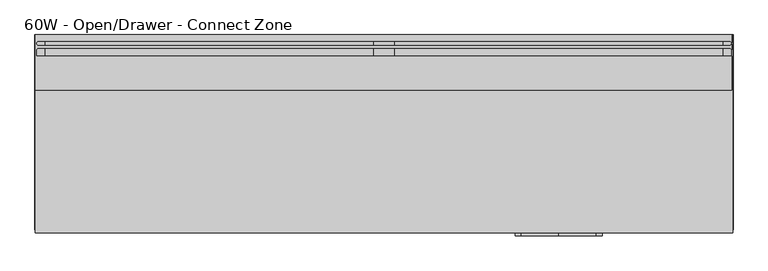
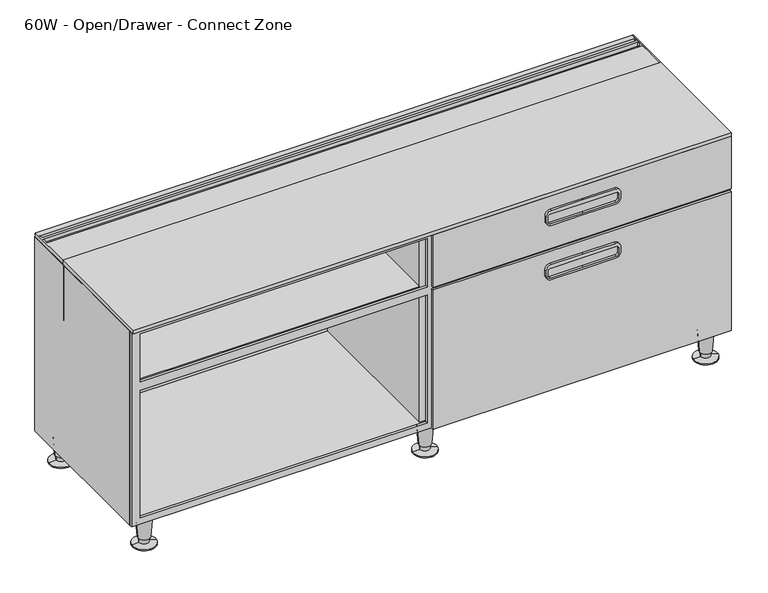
"""IFC4 building model written with IfcOpenShell, lengths in millimetres: furniture geometry, Steelcase - C Scape - Low Storage - 1.5 High - 60W and 72W : 60W - Open/Drawer - Connect Zone."""

from ifc_helpers import new_model, si_unit, point, frame, frame_2d, origin, place, context, project, spatial, polyline, circle_curve, trimmed, segment, composite_curve, outline, extrude, faceted_brep, source, transform, mapped, element, save
from ifc_brep_helpers import plane_surface, cylinder_surface, revolved_surface, advanced_brep


def furniture_60w_open_drawer_connect_zone_06160b98(model_context):
    return source(origin(), model_context, "Body", "SolidModel", [
        advanced_brep(
        [(-302.0173728, -29.5783496, 599.4426137), (-302.0173728, -29.5783496, 458.7801967), (-302.0173728, -9.5194193, 458.7801967), (-302.0173728, -9.5194193, 466.2604814), (-302.0173728, 0.0055807, 466.2604814), (-302.0173728, 0.0055807, 599.4426137), (-302.0173728, -17.0388453, 599.4426137), (-302.0173728, -17.0388453, 609.5926846), (-302.0173728, -20.5059237, 609.5926846), (-302.0173728, -20.5059237, 599.4426137), (-302.0173728, -46.4703418, 599.4426137), (-302.0173728, -32.0458511, 599.4426137), (-302.0173728, -32.0458511, 609.5926846), (-302.0173728, -46.4703418, 609.5926846), (-304.8013237, -120.6444193, 599.4426137), (-304.8013237, -120.6444193, 609.5926846), (-304.8013237, 0.0055807, 609.5926846), (-304.8013237, 0.0055807, 466.2604814), (-304.8013237, -9.5194193, 466.2604814), (-304.8013237, -9.5194193, 458.7801967), (-304.8013237, -29.5783496, 458.7801967), (-304.8013237, -29.5783496, 599.4426137), (-299.2329352, -23.2903613, 599.4426137), (1212.1507358, -23.2903613, 599.4426137), (1215.1272317, -20.3138654, 599.4426137), (1215.1473728, -32.274699, 599.4426137), (1212.4308823, -29.5783496, 599.4426137), (-299.5498713, -29.5783496, 599.4426137), (1215.1473728, -46.4703418, 599.4426137), (1215.1473728, -120.5681445, 599.4426137), (-299.3205978, -14.3420703, 599.4426137), (1215.1473728, 0.0, 599.4426137), (1215.1473728, -17.0388453, 599.4426137), (1212.4505978, -14.3420703, 599.4426137), (1215.1473728, 0.0055807, 609.5926846), (1215.1473728, -120.5681445, 609.5926846), (1215.1473728, -46.4703418, 609.5926846), (-299.5498713, -29.5783496, 609.5926846), (1212.4308823, -29.5783496, 609.5926846), (1215.1272317, -32.274699, 609.5926846), (1215.1473728, -20.3138654, 609.5926846), (1212.1507358, -23.2903613, 609.5926846), (-299.2329352, -23.2903613, 609.5926846), (-299.3205978, -14.3420703, 609.5926846), (1212.4505978, -14.3420703, 609.5926846), (1215.1473728, -17.0388453, 609.5926846)],
        [
            (0, 1),
            (1, 2),
            (2, 3),
            (3, 4),
            (4, 5),
            (5, 6),
            (6, 7),
            (7, 8),
            (8, 9),
            (9, 0),
            (10, 11),
            (11, 12),
            (12, 13),
            (13, 10),
            (14, 15),
            (15, 16),
            (16, 17),
            (17, 18),
            (18, 19),
            (19, 20),
            (20, 21),
            (21, 14),
            (21, 0),
            (9, 22, circle_curve(frame((-299.2329352, -20.5059237, 599.4426137), z_axis=(0.0, 0.0, 1.0), x_axis=(1.0, 0.0, 0.0)), 2.7844376)),
            (22, 23),
            (23, 24, circle_curve(frame((1212.1507358, -20.3138654, 599.4426137), z_axis=(0.0, 0.0, 1.0), x_axis=(1.0, 0.0, 0.0)), 2.9764959)),
            (24, 25),
            (25, 26, circle_curve(frame((1212.4308823, -32.274699, 599.4426137), z_axis=(0.0, 0.0, 1.0), x_axis=(1.0, 0.0, 0.0)), 2.6963494)),
            (26, 27),
            (27, 11, circle_curve(frame((-299.5498713, -32.0458511, 599.4426137), z_axis=(0.0, 0.0, 1.0), x_axis=(1.0, 0.0, 0.0)), 2.4675015)),
            (10, 28),
            (28, 29),
            (29, 14),
            (30, 6, circle_curve(frame((-299.3205978, -17.0388453, 599.4426137), z_axis=(0.0, 0.0, 1.0), x_axis=(1.0, 0.0, 0.0)), 2.696775)),
            (5, 31),
            (31, 32),
            (32, 33, circle_curve(frame((1212.4505978, -17.0388453, 599.4426137), z_axis=(0.0, 0.0, 1.0), x_axis=(1.0, 0.0, 0.0)), 2.696775)),
            (33, 30),
            (20, 1),
            (19, 2),
            (18, 3),
            (17, 4),
            (16, 34),
            (34, 31),
            (15, 35),
            (35, 36),
            (36, 13),
            (12, 37, circle_curve(frame((-299.5498713, -32.0458511, 609.5926846), z_axis=(0.0, 0.0, -1.0), x_axis=(1.0, 0.0, 0.0)), 2.4675015)),
            (37, 38),
            (38, 39, circle_curve(frame((1212.4308823, -32.274699, 609.5926846), z_axis=(0.0, 0.0, -1.0), x_axis=(1.0, 0.0, 0.0)), 2.6963494)),
            (39, 40),
            (40, 41, circle_curve(frame((1212.1507358, -20.3138654, 609.5926846), z_axis=(0.0, 0.0, -1.0), x_axis=(1.0, 0.0, 0.0)), 2.9764959)),
            (41, 42),
            (42, 8, circle_curve(frame((-299.2329352, -20.5059237, 609.5926846), z_axis=(0.0, 0.0, -1.0), x_axis=(1.0, 0.0, 0.0)), 2.7844376)),
            (7, 43, circle_curve(frame((-299.3205978, -17.0388453, 609.5926846), z_axis=(0.0, 0.0, -1.0), x_axis=(1.0, 0.0, 0.0)), 2.696775)),
            (43, 44),
            (44, 45, circle_curve(frame((1212.4505978, -17.0388453, 609.5926846), z_axis=(0.0, 0.0, -1.0), x_axis=(1.0, 0.0, 0.0)), 2.696775)),
            (45, 34),
            (29, 35),
            (38, 26),
            (25, 39),
            (24, 40),
            (23, 41),
            (22, 42),
            (27, 37),
            (36, 28),
            (43, 30),
            (33, 44),
            (32, 45),
        ],
        [
            plane_surface(frame((-302.0173728, -120.6444193, 599.4426137), z_axis=(1.0, 0.0, 0.0), x_axis=(0.0, 1.0, 0.0))),
            plane_surface(frame((-304.8013237, -120.6444193, 599.4426137), z_axis=(-1.0, 0.0, 0.0), x_axis=(0.0, -1.0, 0.0))),
            plane_surface(frame((-302.0173728, -120.6444193, 599.4426137), z_axis=(0.0, 0.0, -1.0), x_axis=(-1.0, 0.0, 0.0))),
            plane_surface(frame((-302.0173728, -29.5783496, 599.4426137), z_axis=(0.0, -1.0, 0.0), x_axis=(-1.0, 0.0, 0.0))),
            plane_surface(frame((-302.0173728, -29.5783496, 458.7801967), z_axis=(0.0, 0.0, -1.0), x_axis=(-1.0, 0.0, 0.0))),
            plane_surface(frame((-302.0173728, -9.5194193, 458.7801967), z_axis=(0.0, 1.0, 0.0), x_axis=(-1.0, 0.0, 0.0))),
            plane_surface(frame((-302.0173728, -9.5194193, 466.2604814), z_axis=(0.0, 0.0, -1.0), x_axis=(-1.0, 0.0, 0.0))),
            plane_surface(frame((-302.0173728, 0.0055807, 466.2604814), z_axis=(0.0, 1.0, 0.0), x_axis=(-1.0, 0.0, 0.0))),
            plane_surface(frame((-302.0173728, 0.0055807, 609.5926846), z_axis=(0.0, 0.0, 1.0), x_axis=(-1.0, 0.0, 0.0))),
            plane_surface(frame((-302.0173728, -120.6444193, 609.5926846), z_axis=(0.0, -1.0, 0.0), x_axis=(-1.0, 0.0, 0.0))),
            revolved_surface(polyline([(1215.1272316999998, -32.274699, 599.4426137), (1215.1272316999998, -32.274699, 609.5926846)]), (1212.4308823, -32.274699, 599.4426137), (0.0, 0.0, -1.0)),
            plane_surface(frame((1215.1473728, -32.274699, 609.5926846), z_axis=(1.0, 0.0, 0.0), x_axis=(0.0, 0.0, -1.0))),
            revolved_surface(polyline([(1215.1272316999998, -20.3138654, 599.4426137), (1215.1272316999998, -20.3138654, 609.5926846)]), (1212.1507358, -20.3138654, 599.4426137), (0.0, 0.0, -1.0)),
            plane_surface(frame((1212.1507358, -23.2903613, 609.5926846), z_axis=(0.0, 1.0, 0.0), x_axis=(0.0, 0.0, -1.0))),
            revolved_surface(polyline([(-296.4484976, -20.5059237, 599.4426137), (-296.4484976, -20.5059237, 609.5926846)]), (-299.2329352, -20.5059237, 599.4426137), (0.0, 0.0, -1.0)),
            revolved_surface(polyline([(-297.0823698, -32.0458511, 599.4426137), (-297.0823698, -32.0458511, 609.5926846)]), (-299.5498713, -32.0458511, 599.4426137), (0.0, 0.0, -1.0)),
            plane_surface(frame((-299.5498713, -29.5783496, 609.5926846), z_axis=(0.0, -1.0, 0.0), x_axis=(0.0, 0.0, -1.0))),
            plane_surface(frame((1215.1473728, -46.4703418, 609.5926846), z_axis=(0.0, 1.0, 0.0), x_axis=(0.0, 0.0, -1.0))),
            plane_surface(frame((1215.1473728, -120.5681445, 609.5926846), z_axis=(1.0, 0.0, 0.0), x_axis=(0.0, 0.0, -1.0))),
            plane_surface(frame((-299.3205978, -14.3420703, 609.5926846), z_axis=(0.0, -1.0, 0.0), x_axis=(0.0, 0.0, -1.0))),
            revolved_surface(polyline([(1215.1473727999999, -17.0388453, 599.4426137), (1215.1473727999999, -17.0388453, 609.5926846)]), (1212.4505978, -17.0388453, 41.6222656), (0.0, 0.0, -1.0)),
            plane_surface(frame((1215.1473728, -17.0388453, 609.5926846), z_axis=(1.0, 0.0, 0.0), x_axis=(0.0, 0.0, -1.0))),
            revolved_surface(polyline([(-296.62382279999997, -17.0388453, 599.4426137), (-296.62382279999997, -17.0388453, 609.5926846)]), (-299.3205978, -17.0388453, 41.6222656), (0.0, 0.0, -1.0)),
        ],
        [
            (0, [[1, 2, 3, 4, 5, 6, 7, 8, 9, 10]]),
            (0, [[11, 12, 13, 14]]),
            (1, [[15, 16, 17, 18, 19, 20, 21, 22]]),
            (2, [[-22, 23, -10, 24, 25, 26, 27, 28, 29, 30, -11, 31, 32, 33]]),
            (2, [[34, -6, 35, 36, 37, 38]]),
            (3, [[-1, -23, -21, 39]]),
            (4, [[-2, -39, -20, 40]]),
            (5, [[-3, -40, -19, 41]]),
            (6, [[-4, -41, -18, 42]]),
            (7, [[-17, 43, 44, -35, -5, -42]]),
            (8, [[-43, -16, 45, 46, 47, -13, 48, 49, 50, 51, 52, 53, 54, -8, 55, 56, 57, 58]]),
            (9, [[-45, -15, -33, 59]]),
            (10, [[-50, 60, -28, 61]]),
            (11, [[-51, -61, -27, 62]]),
            (12, [[-52, -62, -26, 63]]),
            (13, [[-53, -63, -25, 64]]),
            (14, [[-54, -64, -24, -9]]),
            (15, [[-48, -12, -30, 65]]),
            (16, [[-49, -65, -29, -60]]),
            (17, [[-47, 66, -31, -14]]),
            (18, [[-46, -59, -32, -66]]),
            (19, [[-56, 67, -38, 68]]),
            (20, [[-57, -68, -37, 69]]),
            (21, [[-58, -69, -36, -44]]),
            (22, [[-55, -7, -34, -67]]),
        ],
    ),
        extrude(outline(polyline([(458.7240097, 572.1950189), (432.6382043, 572.1950189), (432.6382043, 449.8975), (432.6382043, 340.9349811), (458.7240097, 340.9349811), (458.7240097, -304.8013237), (92.7100024, -304.8013237), (92.7100024, 1217.93), (458.7240097, 1217.93), (458.7240097, 572.1950189)])), frame((0.0, -9.5194193, 0.0), z_axis=(0.0, 1.0, 0.0), x_axis=(0.0, 0.0, 1.0)), (0.0, 0.0, 1.0), 9.525),
        extrude(outline(polyline([(-120.6444193, 609.6), (-120.6444193, 450.8499879), (-126.9863574, 450.8499879), (-126.9863574, 599.4499291), (-433.07, 599.4499291), (-433.07, 609.6), (-120.6444193, 609.6)])), frame((-304.8013237, 0.0, 0.0), z_axis=(1.0, 0.0, 0.0), x_axis=(0.0, 1.0, 0.0)), (0.0, 0.0, 1.0), 1522.7313237),
        extrude(outline(polyline([(-120.6444193, 599.4426137), (-120.6444193, 609.5926846), (0.0055807, 609.5926846), (0.0055807, 466.2604814), (-9.5194193, 466.2604814), (-9.5194193, 458.7801967), (-29.5783496, 458.7801967), (-29.5783496, 599.4426137), (-120.6444193, 599.4426137)])), frame((1215.1473728, 0.0, 0.0), z_axis=(1.0, 0.0, 0.0), x_axis=(0.0, 1.0, 0.0)), (0.0, 0.0, 1.0), 2.7826272),
        extrude(outline(polyline([(76.1508625, -305.435), (76.1508625, 1218.565), (599.4400097, 1218.565), (599.4400097, 457.132594), (599.4400097, -305.435), (76.1508625, -305.435)]), holes=[polyline([(92.7100024, 447.6410976), (92.7100024, -283.4617676), (436.8800097, -283.4617676), (436.8800097, 447.6410976), (92.7100024, 447.6410976)]), polyline([(588.9625, -283.4617676), (588.9625, 447.6410976), (458.7240097, 447.6410976), (458.7240097, -283.4617676), (588.9625, -283.4617676)]), polyline([(436.8800097, 465.4889024), (436.8800097, 1196.5917676), (92.7100024, 1196.5917676), (92.7100024, 465.4889024), (436.8800097, 465.4889024)]), polyline([(588.9625, 1196.5917676), (458.7240097, 1196.5917676), (458.7240097, 465.4889024), (588.9625, 465.4889024), (588.9625, 1196.5917676)])]), frame((0.0, -426.7186111, 0.0), z_axis=(0.0, 1.0, 0.0), x_axis=(0.0, 0.0, 1.0)), (0.0, 0.0, 1.0), 7.3648883),
        extrude(outline(polyline([(1218.565, 0.0), (1218.565, -419.3537227), (1196.5917676, -419.3537227), (1196.5917676, 0.0), (1218.565, 0.0)])), frame((0.0, 0.0, 76.2), z_axis=(0.0, 0.0, 1.0), x_axis=(1.0, 0.0, 0.0)), (0.0, 0.0, 1.0), 523.2400097),
        extrude(outline(polyline([(-283.4630912, -419.3537227), (-305.435, -419.3537227), (-305.435, 0.0), (-283.4630912, 0.0), (-283.4630912, -419.3537227)])), frame((0.0, 0.0, 76.2), z_axis=(0.0, 0.0, 1.0), x_axis=(1.0, 0.0, 0.0)), (0.0, 0.0, 1.0), 523.2400097),
        extrude(outline(polyline([(434.0224874, -415.2912402), (434.0224874, -9.525), (479.1075126, -9.525), (479.1075126, -415.2912402), (434.0224874, -415.2912402)])), frame((0.0, 0.0, 76.2), z_axis=(0.0, 0.0, 1.0), x_axis=(1.0, 0.0, 0.0)), (0.0, 0.0, 1.0), 523.2400097),
        extrude(outline(polyline([(479.1075126, -9.525), (1196.5917676, -9.525), (1196.5917676, -415.2912402), (479.1075126, -415.2912402), (479.1075126, -9.525)])), frame((0.0, 0.0, 436.8800097), z_axis=(0.0, 0.0, 1.0), x_axis=(1.0, 0.0, 0.0)), (0.0, 0.0, 1.0), 21.844),
        extrude(outline(polyline([(434.0224874, -415.2912402), (-283.4617676, -415.2912402), (-283.4617676, -9.525), (434.0224874, -9.525), (434.0224874, -415.2912402)])), frame((0.0, 0.0, 436.8800097), z_axis=(0.0, 0.0, 1.0), x_axis=(1.0, 0.0, 0.0)), (0.0, 0.0, 1.0), 21.844),
        extrude(outline(composite_curve([segment(trimmed(circle_curve(frame_2d((406.3999879, 755.3320892)), 12.7), [point((419.0999879, 755.3320892))], [point((406.3999879, 742.6320892))], False, "CARTESIAN"), True, "CONTINUOUS"), segment(polyline([(406.3999879, 742.6320892), (391.795017, 742.6320892)]), True, "CONTINUOUS"), segment(trimmed(circle_curve(frame_2d((391.795017, 755.3320892)), 12.7), [point((391.795017, 742.6320892))], [point((379.095017, 755.3320892))], False, "CARTESIAN"), True, "CONTINUOUS"), segment(polyline([(379.095017, 755.3320892), (379.095017, 837.564845), (379.095017, 919.7976007)]), True, "CONTINUOUS"), segment(trimmed(circle_curve(frame_2d((391.795017, 919.7976007)), 12.7), [point((379.095017, 919.7976007))], [point((391.795017, 932.4976007))], False, "CARTESIAN"), True, "CONTINUOUS"), segment(polyline([(391.795017, 932.4976007), (406.3999879, 932.4976007)]), True, "CONTINUOUS"), segment(trimmed(circle_curve(frame_2d((406.3999879, 919.7976007)), 12.7), [point((406.3999879, 932.4976007))], [point((419.0999879, 919.7976007))], False, "CARTESIAN"), True, "CONTINUOUS"), segment(polyline([(419.0999879, 919.7976007), (419.0999879, 837.564845), (419.0999879, 755.3320892)]), True, "CONTINUOUS")], self_intersect=False), holes=[composite_curve([segment(trimmed(circle_curve(frame_2d((402.9710063, 753.8097015)), 6.35), [point((402.9710063, 747.4597015))], [point((409.3210063, 753.8097015))], True, "CARTESIAN"), True, "CONTINUOUS"), segment(polyline([(409.3210063, 753.8097015), (409.3210063, 837.564845), (409.3210063, 921.3199884)]), True, "CONTINUOUS"), segment(trimmed(circle_curve(frame_2d((402.9710063, 921.3199884)), 6.35), [point((409.3210063, 921.3199884))], [point((402.9710063, 927.6699884))], True, "CARTESIAN"), True, "CONTINUOUS"), segment(polyline([(402.9710063, 927.6699884), (390.2709942, 927.6699884)]), True, "CONTINUOUS"), segment(trimmed(circle_curve(frame_2d((390.2709942, 921.3199884)), 6.35), [point((390.2709942, 927.6699884))], [point((383.9209942, 921.3199884))], True, "CARTESIAN"), True, "CONTINUOUS"), segment(polyline([(383.9209942, 921.3199884), (383.9209942, 837.564845), (383.9209942, 753.8097015)]), True, "CONTINUOUS"), segment(trimmed(circle_curve(frame_2d((390.2709942, 753.8097015)), 6.35), [point((383.9209942, 753.8097015))], [point((390.2709942, 747.4597015))], True, "CARTESIAN"), True, "CONTINUOUS"), segment(polyline([(390.2709942, 747.4597015), (402.9710063, 747.4597015)]), True, "CONTINUOUS")], self_intersect=False)]), frame((0.0, -439.42, 0.0), z_axis=(0.0, 1.0, 0.0), x_axis=(0.0, 0.0, 1.0)), (0.0, 0.0, 1.0), 6.35),
        extrude(outline(polyline([(457.1996899, -426.7186111), (1217.93, -426.7186111), (1217.93, -433.07), (457.1996899, -433.07), (457.1996899, -426.7186111)])), frame((0.0, 0.0, 458.7240097), z_axis=(0.0, 0.0, 1.0), x_axis=(1.0, 0.0, 0.0)), (0.0, 0.0, 1.0), 140.716),
        faceted_brep([(-283.4617676, -419.3537227, 92.7100024), (1196.5917676, -419.3537227, 92.7100024), (1196.5917676, -9.525, 92.7100024), (479.1075126, -9.525, 92.7100024), (479.1075126, -415.2912402, 92.7100024), (434.0224874, -415.2912402, 92.7100024), (434.0224874, -9.525, 92.7100024), (-283.4617676, -9.525, 92.7100024), (1218.565, 0.0, 76.2), (1218.565, -419.3537227, 76.2), (-305.435, -419.3537227, 76.2), (-305.435, 0.0, 76.2), (-283.4630912, -419.3537227, 599.4400097), (-305.435, -419.3537227, 599.4400097), (1218.565, -419.3537227, 599.4400097), (1196.5917676, -419.3537227, 599.4400097), (-305.435, 0.0, 599.4400097), (1218.565, 0.0, 599.4400097), (-283.4630912, -9.525, 599.4400097), (434.0224874, -9.525, 599.4400097), (434.0224874, -415.2912402, 599.4400097), (479.1075126, -415.2912402, 599.4400097), (479.1075126, -9.525, 599.4400097), (1196.5917676, -9.525, 599.4400097)], [[[0, 1, 2, 3, 4, 5, 6, 7]], [[8, 9, 10, 11]], [[1, 0, 12, 13, 10, 9, 14, 15]], [[8, 11, 16, 17]], [[16, 13, 12, 18, 19, 20, 21, 22, 23, 15, 14, 17]], [[13, 16, 11, 10]], [[18, 12, 0, 7]], [[19, 18, 7, 6]], [[20, 19, 6, 5]], [[22, 21, 4, 3]], [[23, 22, 3, 2]], [[15, 23, 2, 1]], [[17, 14, 9, 8]], [[21, 20, 5, 4]]]),
        advanced_brep(
        [(427.4539515, -29.9489775, 0.0), (485.6760485, -38.8569507, 0.0), (456.565, -34.4029641, 0.0), (427.4539515, -29.9489775, 2.5119506), (485.6760485, -38.8569507, 2.5119506), (444.802835, -32.6033544, 5.7545598), (468.327165, -36.2025738, 5.7545598), (444.1140655, -32.4979728, 19.05), (469.0159345, -36.3079555, 19.05), (441.6844786, -32.1262463, 19.05), (471.4455214, -36.6796819, 19.05), (437.7341305, -31.5218435, 76.2), (475.3958695, -37.2840847, 76.2), (456.565, -34.4029641, 76.2)],
        [
            (0, 1, circle_curve(frame((456.565, -34.4029641, 0.0), z_axis=(0.0, 0.0, -1.0), x_axis=(0.0, -1.0, 0.0)), 29.4498071)),
            (1, 2),
            (2, 0),
            (1, 0, circle_curve(frame((456.565, -34.4029641, 0.0), z_axis=(0.0, 0.0, -1.0), x_axis=(0.0, -1.0, 0.0)), 29.4498071)),
            (3, 4, circle_curve(frame((456.565, -34.4029641, 2.5119506), z_axis=(0.0, 0.0, -1.0), x_axis=(0.0, -1.0, 0.0)), 29.4498071)),
            (4, 1),
            (0, 3),
            (4, 3, circle_curve(frame((456.565, -34.4029641, 2.5119506), z_axis=(0.0, 0.0, -1.0), x_axis=(0.0, -1.0, 0.0)), 29.4498071)),
            (5, 6, circle_curve(frame((456.565, -34.4029641, 5.7545598), z_axis=(0.0, 0.0, -1.0), x_axis=(0.0, -1.0, 0.0)), 11.8990387)),
            (6, 4),
            (3, 5),
            (6, 5, circle_curve(frame((456.565, -34.4029641, 5.7545598), z_axis=(0.0, 0.0, -1.0), x_axis=(0.0, -1.0, 0.0)), 11.8990387)),
            (7, 8, circle_curve(frame((456.565, -34.4029641, 19.05), z_axis=(0.0, 0.0, -1.0), x_axis=(0.0, -1.0, 0.0)), 12.5958232)),
            (8, 6),
            (5, 7),
            (8, 7, circle_curve(frame((456.565, -34.4029641, 19.05), z_axis=(0.0, 0.0, -1.0), x_axis=(0.0, -1.0, 0.0)), 12.5958232)),
            (9, 10, circle_curve(frame((456.565, -34.4029641, 19.05), z_axis=(0.0, 0.0, -1.0), x_axis=(0.0, -1.0, 0.0)), 15.0536827)),
            (10, 8),
            (7, 9),
            (10, 9, circle_curve(frame((456.565, -34.4029641, 19.05), z_axis=(0.0, 0.0, -1.0), x_axis=(0.0, -1.0, 0.0)), 15.0536827)),
            (11, 12, circle_curve(frame((456.565, -34.4029641, 76.2), z_axis=(0.0, 0.0, -1.0), x_axis=(0.0, -1.0, 0.0)), 19.05)),
            (12, 10),
            (9, 11),
            (12, 11, circle_curve(frame((456.565, -34.4029641, 76.2), z_axis=(0.0, 0.0, -1.0), x_axis=(0.0, -1.0, 0.0)), 19.05)),
            (13, 12),
            (11, 13),
        ],
        [
            plane_surface(frame((456.565, -34.4029641, 0.0), z_axis=(0.0, 0.0, -1.0), x_axis=(0.0, -1.0, 0.0))),
            cylinder_surface(frame((456.565, -34.4029641, 25.4), z_axis=(0.0, 0.0, 1.0), x_axis=(0.0, -1.0, 0.0)), 29.4498071),
            revolved_surface(polyline([(456.565, -63.8527712, 2.5119506), (456.565, -46.3020028, 5.7545598)]), (456.565, -34.4029641, 25.4), (0.0, 0.0, 1.0)),
            revolved_surface(polyline([(456.565, -46.3020028, 5.7545598), (456.565, -46.9987873, 19.05)]), (456.565, -34.4029641, 25.4), (0.0, 0.0, 1.0)),
            plane_surface(frame((456.565, -34.4029641, 19.05), z_axis=(0.0, 0.0, -1.0), x_axis=(0.0, -1.0, 0.0))),
            revolved_surface(polyline([(456.565, -49.4566468, 19.05), (456.565, -53.4529641, 76.2)]), (456.565, -34.4029641, 25.4), (0.0, 0.0, 1.0)),
            plane_surface(frame((456.565, -34.4029641, 76.2), z_axis=(0.0, 0.0, 1.0), x_axis=(0.0, -1.0, 0.0))),
        ],
        [
            (0, [[1, 2, 3]]),
            (0, [[4, -3, -2]]),
            (1, [[5, 6, -1, 7]]),
            (1, [[8, -7, -4, -6]]),
            (2, [[9, 10, -5, 11]]),
            (2, [[12, -11, -8, -10]]),
            (3, [[13, 14, -9, 15]]),
            (3, [[16, -15, -12, -14]]),
            (4, [[17, 18, -13, 19]]),
            (4, [[20, -19, -16, -18]]),
            (5, [[21, 22, -17, 23]]),
            (5, [[24, -23, -20, -22]]),
            (6, [[25, -21, 26]]),
            (6, [[-26, -24, -25]]),
        ],
    ),
        advanced_brep(
        [(427.4539515, -395.5974102, 0.0), (485.6760485, -404.5053834, 0.0), (456.565, -400.0513968, 0.0), (427.4539515, -395.5974102, 2.5119506), (485.6760485, -404.5053834, 2.5119506), (444.802835, -398.2517871, 5.7545598), (468.327165, -401.8510065, 5.7545598), (444.1140655, -398.1464055, 19.05), (469.0159345, -401.9563882, 19.05), (441.6844786, -397.774679, 19.05), (471.4455214, -402.3281146, 19.05), (437.7341305, -397.1702762, 76.2), (475.3958695, -402.9325174, 76.2), (456.565, -400.0513968, 76.2)],
        [
            (0, 1, circle_curve(frame((456.565, -400.0513968, 0.0), z_axis=(0.0, 0.0, -1.0), x_axis=(0.0, -1.0, 0.0)), 29.4498071)),
            (1, 2),
            (2, 0),
            (1, 0, circle_curve(frame((456.565, -400.0513968, 0.0), z_axis=(0.0, 0.0, -1.0), x_axis=(0.0, -1.0, 0.0)), 29.4498071)),
            (3, 4, circle_curve(frame((456.565, -400.0513968, 2.5119506), z_axis=(0.0, 0.0, -1.0), x_axis=(0.0, -1.0, 0.0)), 29.4498071)),
            (4, 1),
            (0, 3),
            (4, 3, circle_curve(frame((456.565, -400.0513968, 2.5119506), z_axis=(0.0, 0.0, -1.0), x_axis=(0.0, -1.0, 0.0)), 29.4498071)),
            (5, 6, circle_curve(frame((456.565, -400.0513968, 5.7545598), z_axis=(0.0, 0.0, -1.0), x_axis=(0.0, -1.0, 0.0)), 11.8990387)),
            (6, 4),
            (3, 5),
            (6, 5, circle_curve(frame((456.565, -400.0513968, 5.7545598), z_axis=(0.0, 0.0, -1.0), x_axis=(0.0, -1.0, 0.0)), 11.8990387)),
            (7, 8, circle_curve(frame((456.565, -400.0513968, 19.05), z_axis=(0.0, 0.0, -1.0), x_axis=(0.0, -1.0, 0.0)), 12.5958232)),
            (8, 6),
            (5, 7),
            (8, 7, circle_curve(frame((456.565, -400.0513968, 19.05), z_axis=(0.0, 0.0, -1.0), x_axis=(0.0, -1.0, 0.0)), 12.5958232)),
            (9, 10, circle_curve(frame((456.565, -400.0513968, 19.05), z_axis=(0.0, 0.0, -1.0), x_axis=(0.0, -1.0, 0.0)), 15.0536827)),
            (10, 8),
            (7, 9),
            (10, 9, circle_curve(frame((456.565, -400.0513968, 19.05), z_axis=(0.0, 0.0, -1.0), x_axis=(0.0, -1.0, 0.0)), 15.0536827)),
            (11, 12, circle_curve(frame((456.565, -400.0513968, 76.2), z_axis=(0.0, 0.0, -1.0), x_axis=(0.0, -1.0, 0.0)), 19.05)),
            (12, 10),
            (9, 11),
            (12, 11, circle_curve(frame((456.565, -400.0513968, 76.2), z_axis=(0.0, 0.0, -1.0), x_axis=(0.0, -1.0, 0.0)), 19.05)),
            (13, 12),
            (11, 13),
        ],
        [
            plane_surface(frame((456.565, -400.0513968, 0.0), z_axis=(0.0, 0.0, -1.0), x_axis=(0.0, -1.0, 0.0))),
            cylinder_surface(frame((456.565, -400.0513968, 25.4), z_axis=(0.0, 0.0, 1.0), x_axis=(0.0, -1.0, 0.0)), 29.4498071),
            revolved_surface(polyline([(456.565, -429.5012039, 2.5119506), (456.565, -411.9504355, 5.7545598)]), (456.565, -400.0513968, 25.4), (0.0, 0.0, 1.0)),
            revolved_surface(polyline([(456.565, -411.9504355, 5.7545598), (456.565, -412.64722, 19.05)]), (456.565, -400.0513968, 25.4), (0.0, 0.0, 1.0)),
            plane_surface(frame((456.565, -400.0513968, 19.05), z_axis=(0.0, 0.0, -1.0), x_axis=(0.0, -1.0, 0.0))),
            revolved_surface(polyline([(456.565, -415.1050795, 19.05), (456.565, -419.1013968, 76.2)]), (456.565, -400.0513968, 25.4), (0.0, 0.0, 1.0)),
            plane_surface(frame((456.565, -400.0513968, 76.2), z_axis=(0.0, 0.0, 1.0), x_axis=(0.0, -1.0, 0.0))),
        ],
        [
            (0, [[1, 2, 3]]),
            (0, [[4, -3, -2]]),
            (1, [[5, 6, -1, 7]]),
            (1, [[8, -7, -4, -6]]),
            (2, [[9, 10, -5, 11]]),
            (2, [[12, -11, -8, -10]]),
            (3, [[13, 14, -9, 15]]),
            (3, [[16, -15, -12, -14]]),
            (4, [[17, 18, -13, 19]]),
            (4, [[20, -19, -16, -18]]),
            (5, [[21, 22, -17, 23]]),
            (5, [[24, -23, -20, -22]]),
            (6, [[25, -21, 26]]),
            (6, [[-26, -24, -25]]),
        ],
    ),
        extrude(outline(composite_curve([segment(trimmed(circle_curve(frame_2d((552.4499879, 755.3320892)), 12.7), [point((565.1499879, 755.3320892))], [point((552.4499879, 742.6320892))], False, "CARTESIAN"), True, "CONTINUOUS"), segment(polyline([(552.4499879, 742.6320892), (537.845017, 742.6320892)]), True, "CONTINUOUS"), segment(trimmed(circle_curve(frame_2d((537.845017, 755.3320892)), 12.7), [point((537.845017, 742.6320892))], [point((525.145017, 755.3320892))], False, "CARTESIAN"), True, "CONTINUOUS"), segment(polyline([(525.145017, 755.3320892), (525.145017, 837.564845), (525.145017, 919.7976007)]), True, "CONTINUOUS"), segment(trimmed(circle_curve(frame_2d((537.845017, 919.7976007)), 12.7), [point((525.145017, 919.7976007))], [point((537.845017, 932.4976007))], False, "CARTESIAN"), True, "CONTINUOUS"), segment(polyline([(537.845017, 932.4976007), (552.4499879, 932.4976007)]), True, "CONTINUOUS"), segment(trimmed(circle_curve(frame_2d((552.4499879, 919.7976007)), 12.7), [point((552.4499879, 932.4976007))], [point((565.1499879, 919.7976007))], False, "CARTESIAN"), True, "CONTINUOUS"), segment(polyline([(565.1499879, 919.7976007), (565.1499879, 837.564845), (565.1499879, 755.3320892)]), True, "CONTINUOUS")], self_intersect=False), holes=[composite_curve([segment(trimmed(circle_curve(frame_2d((549.0210063, 753.8097015)), 6.35), [point((549.0210063, 747.4597015))], [point((555.3710063, 753.8097015))], True, "CARTESIAN"), True, "CONTINUOUS"), segment(polyline([(555.3710063, 753.8097015), (555.3710063, 837.564845), (555.3710063, 921.3199884)]), True, "CONTINUOUS"), segment(trimmed(circle_curve(frame_2d((549.0210063, 921.3199884)), 6.35), [point((555.3710063, 921.3199884))], [point((549.0210063, 927.6699884))], True, "CARTESIAN"), True, "CONTINUOUS"), segment(polyline([(549.0210063, 927.6699884), (536.3209942, 927.6699884)]), True, "CONTINUOUS"), segment(trimmed(circle_curve(frame_2d((536.3209942, 921.3199884)), 6.35), [point((536.3209942, 927.6699884))], [point((529.9709942, 921.3199884))], True, "CARTESIAN"), True, "CONTINUOUS"), segment(polyline([(529.9709942, 921.3199884), (529.9709942, 837.564845), (529.9709942, 753.8097015)]), True, "CONTINUOUS"), segment(trimmed(circle_curve(frame_2d((536.3209942, 753.8097015)), 6.35), [point((529.9709942, 753.8097015))], [point((536.3209942, 747.4597015))], True, "CARTESIAN"), True, "CONTINUOUS"), segment(polyline([(536.3209942, 747.4597015), (549.0210063, 747.4597015)]), True, "CONTINUOUS")], self_intersect=False)]), frame((0.0, -439.42, 0.0), z_axis=(0.0, 1.0, 0.0), x_axis=(0.0, 0.0, 1.0)), (0.0, 0.0, 1.0), 6.35),
        advanced_brep(
        [(1142.1075389, -29.9489775, 0.0), (1200.3296359, -38.8569507, 0.0), (1171.2185874, -34.4029641, 0.0), (1142.1075389, -29.9489775, 2.5119506), (1200.3296359, -38.8569507, 2.5119506), (1159.4564224, -32.6033544, 5.7545598), (1182.9807524, -36.2025738, 5.7545598), (1158.7676529, -32.4979728, 19.05), (1183.6695219, -36.3079555, 19.05), (1156.3380659, -32.1262463, 19.05), (1186.0991088, -36.6796819, 19.05), (1152.3877179, -31.5218435, 76.2), (1190.0494568, -37.2840847, 76.2), (1171.2185874, -34.4029641, 76.2)],
        [
            (0, 1, circle_curve(frame((1171.2185874, -34.4029641, 0.0), z_axis=(0.0, 0.0, -1.0), x_axis=(0.0, -1.0, 0.0)), 29.4498071)),
            (1, 2),
            (2, 0),
            (1, 0, circle_curve(frame((1171.2185874, -34.4029641, 0.0), z_axis=(0.0, 0.0, -1.0), x_axis=(0.0, -1.0, 0.0)), 29.4498071)),
            (3, 4, circle_curve(frame((1171.2185874, -34.4029641, 2.5119506), z_axis=(0.0, 0.0, -1.0), x_axis=(0.0, -1.0, 0.0)), 29.4498071)),
            (4, 1),
            (0, 3),
            (4, 3, circle_curve(frame((1171.2185874, -34.4029641, 2.5119506), z_axis=(0.0, 0.0, -1.0), x_axis=(0.0, -1.0, 0.0)), 29.4498071)),
            (5, 6, circle_curve(frame((1171.2185874, -34.4029641, 5.7545598), z_axis=(0.0, 0.0, -1.0), x_axis=(0.0, -1.0, 0.0)), 11.8990387)),
            (6, 4),
            (3, 5),
            (6, 5, circle_curve(frame((1171.2185874, -34.4029641, 5.7545598), z_axis=(0.0, 0.0, -1.0), x_axis=(0.0, -1.0, 0.0)), 11.8990387)),
            (7, 8, circle_curve(frame((1171.2185874, -34.4029641, 19.05), z_axis=(0.0, 0.0, -1.0), x_axis=(0.0, -1.0, 0.0)), 12.5958232)),
            (8, 6),
            (5, 7),
            (8, 7, circle_curve(frame((1171.2185874, -34.4029641, 19.05), z_axis=(0.0, 0.0, -1.0), x_axis=(0.0, -1.0, 0.0)), 12.5958232)),
            (9, 10, circle_curve(frame((1171.2185874, -34.4029641, 19.05), z_axis=(0.0, 0.0, -1.0), x_axis=(0.0, -1.0, 0.0)), 15.0536827)),
            (10, 8),
            (7, 9),
            (10, 9, circle_curve(frame((1171.2185874, -34.4029641, 19.05), z_axis=(0.0, 0.0, -1.0), x_axis=(0.0, -1.0, 0.0)), 15.0536827)),
            (11, 12, circle_curve(frame((1171.2185874, -34.4029641, 76.2), z_axis=(0.0, 0.0, -1.0), x_axis=(0.0, -1.0, 0.0)), 19.05)),
            (12, 10),
            (9, 11),
            (12, 11, circle_curve(frame((1171.2185874, -34.4029641, 76.2), z_axis=(0.0, 0.0, -1.0), x_axis=(0.0, -1.0, 0.0)), 19.05)),
            (13, 12),
            (11, 13),
        ],
        [
            plane_surface(frame((1171.2185874, -34.4029641, 0.0), z_axis=(0.0, 0.0, -1.0), x_axis=(0.0, -1.0, 0.0))),
            cylinder_surface(frame((1171.2185874, -34.4029641, 25.4), z_axis=(0.0, 0.0, 1.0), x_axis=(0.0, -1.0, 0.0)), 29.4498071),
            revolved_surface(polyline([(1171.2185874, -63.8527712, 2.5119506), (1171.2185874, -46.3020028, 5.7545598)]), (1171.2185874, -34.4029641, 25.4), (0.0, 0.0, 1.0)),
            revolved_surface(polyline([(1171.2185874, -46.3020028, 5.7545598), (1171.2185874, -46.9987873, 19.05)]), (1171.2185874, -34.4029641, 25.4), (0.0, 0.0, 1.0)),
            plane_surface(frame((1171.2185874, -34.4029641, 19.05), z_axis=(0.0, 0.0, -1.0), x_axis=(0.0, -1.0, 0.0))),
            revolved_surface(polyline([(1171.2185874, -49.4566468, 19.05), (1171.2185874, -53.4529641, 76.2)]), (1171.2185874, -34.4029641, 25.4), (0.0, 0.0, 1.0)),
            plane_surface(frame((1171.2185874, -34.4029641, 76.2), z_axis=(0.0, 0.0, 1.0), x_axis=(0.0, -1.0, 0.0))),
        ],
        [
            (0, [[1, 2, 3]]),
            (0, [[4, -3, -2]]),
            (1, [[5, 6, -1, 7]]),
            (1, [[8, -7, -4, -6]]),
            (2, [[9, 10, -5, 11]]),
            (2, [[12, -11, -8, -10]]),
            (3, [[13, 14, -9, 15]]),
            (3, [[16, -15, -12, -14]]),
            (4, [[17, 18, -13, 19]]),
            (4, [[20, -19, -16, -18]]),
            (5, [[21, 22, -17, 23]]),
            (5, [[24, -23, -20, -22]]),
            (6, [[25, -21, 26]]),
            (6, [[-26, -24, -25]]),
        ],
    ),
        advanced_brep(
        [(1142.1075389, -395.5974102, 0.0), (1200.3296359, -404.5053834, 0.0), (1171.2185874, -400.0513968, 0.0), (1142.1075389, -395.5974102, 2.5119506), (1200.3296359, -404.5053834, 2.5119506), (1159.4564224, -398.2517871, 5.7545598), (1182.9807524, -401.8510065, 5.7545598), (1158.7676529, -398.1464055, 19.05), (1183.6695219, -401.9563882, 19.05), (1156.3380659, -397.774679, 19.05), (1186.0991088, -402.3281146, 19.05), (1152.3877179, -397.1702762, 76.2), (1190.0494568, -402.9325174, 76.2), (1171.2185874, -400.0513968, 76.2)],
        [
            (0, 1, circle_curve(frame((1171.2185874, -400.0513968, 0.0), z_axis=(0.0, 0.0, -1.0), x_axis=(0.0, -1.0, 0.0)), 29.4498071)),
            (1, 2),
            (2, 0),
            (1, 0, circle_curve(frame((1171.2185874, -400.0513968, 0.0), z_axis=(0.0, 0.0, -1.0), x_axis=(0.0, -1.0, 0.0)), 29.4498071)),
            (3, 4, circle_curve(frame((1171.2185874, -400.0513968, 2.5119506), z_axis=(0.0, 0.0, -1.0), x_axis=(0.0, -1.0, 0.0)), 29.4498071)),
            (4, 1),
            (0, 3),
            (4, 3, circle_curve(frame((1171.2185874, -400.0513968, 2.5119506), z_axis=(0.0, 0.0, -1.0), x_axis=(0.0, -1.0, 0.0)), 29.4498071)),
            (5, 6, circle_curve(frame((1171.2185874, -400.0513968, 5.7545598), z_axis=(0.0, 0.0, -1.0), x_axis=(0.0, -1.0, 0.0)), 11.8990387)),
            (6, 4),
            (3, 5),
            (6, 5, circle_curve(frame((1171.2185874, -400.0513968, 5.7545598), z_axis=(0.0, 0.0, -1.0), x_axis=(0.0, -1.0, 0.0)), 11.8990387)),
            (7, 8, circle_curve(frame((1171.2185874, -400.0513968, 19.05), z_axis=(0.0, 0.0, -1.0), x_axis=(0.0, -1.0, 0.0)), 12.5958232)),
            (8, 6),
            (5, 7),
            (8, 7, circle_curve(frame((1171.2185874, -400.0513968, 19.05), z_axis=(0.0, 0.0, -1.0), x_axis=(0.0, -1.0, 0.0)), 12.5958232)),
            (9, 10, circle_curve(frame((1171.2185874, -400.0513968, 19.05), z_axis=(0.0, 0.0, -1.0), x_axis=(0.0, -1.0, 0.0)), 15.0536827)),
            (10, 8),
            (7, 9),
            (10, 9, circle_curve(frame((1171.2185874, -400.0513968, 19.05), z_axis=(0.0, 0.0, -1.0), x_axis=(0.0, -1.0, 0.0)), 15.0536827)),
            (11, 12, circle_curve(frame((1171.2185874, -400.0513968, 76.2), z_axis=(0.0, 0.0, -1.0), x_axis=(0.0, -1.0, 0.0)), 19.05)),
            (12, 10),
            (9, 11),
            (12, 11, circle_curve(frame((1171.2185874, -400.0513968, 76.2), z_axis=(0.0, 0.0, -1.0), x_axis=(0.0, -1.0, 0.0)), 19.05)),
            (13, 12),
            (11, 13),
        ],
        [
            plane_surface(frame((1171.2185874, -400.0513968, 0.0), z_axis=(0.0, 0.0, -1.0), x_axis=(0.0, -1.0, 0.0))),
            cylinder_surface(frame((1171.2185874, -400.0513968, 25.4), z_axis=(0.0, 0.0, 1.0), x_axis=(0.0, -1.0, 0.0)), 29.4498071),
            revolved_surface(polyline([(1171.2185874, -429.5012039, 2.5119506), (1171.2185874, -411.9504355, 5.7545598)]), (1171.2185874, -400.0513968, 25.4), (0.0, 0.0, 1.0)),
            revolved_surface(polyline([(1171.2185874, -411.9504355, 5.7545598), (1171.2185874, -412.64722, 19.05)]), (1171.2185874, -400.0513968, 25.4), (0.0, 0.0, 1.0)),
            plane_surface(frame((1171.2185874, -400.0513968, 19.05), z_axis=(0.0, 0.0, -1.0), x_axis=(0.0, -1.0, 0.0))),
            revolved_surface(polyline([(1171.2185874, -415.1050795, 19.05), (1171.2185874, -419.1013968, 76.2)]), (1171.2185874, -400.0513968, 25.4), (0.0, 0.0, 1.0)),
            plane_surface(frame((1171.2185874, -400.0513968, 76.2), z_axis=(0.0, 0.0, 1.0), x_axis=(0.0, -1.0, 0.0))),
        ],
        [
            (0, [[1, 2, 3]]),
            (0, [[4, -3, -2]]),
            (1, [[5, 6, -1, 7]]),
            (1, [[8, -7, -4, -6]]),
            (2, [[9, 10, -5, 11]]),
            (2, [[12, -11, -8, -10]]),
            (3, [[13, 14, -9, 15]]),
            (3, [[16, -15, -12, -14]]),
            (4, [[17, 18, -13, 19]]),
            (4, [[20, -19, -16, -18]]),
            (5, [[21, 22, -17, 23]]),
            (5, [[24, -23, -20, -22]]),
            (6, [[25, -21, 26]]),
            (6, [[-26, -24, -25]]),
        ],
    ),
        advanced_brep(
        [(-287.8113721, -395.5974102, 0.0), (-229.5892752, -404.5053834, 0.0), (-258.7003237, -400.0513968, 0.0), (-287.8113721, -395.5974102, 2.5119506), (-229.5892752, -404.5053834, 2.5119506), (-270.4624887, -398.2517871, 5.7545598), (-246.9381586, -401.8510065, 5.7545598), (-271.1512581, -398.1464055, 19.05), (-246.2493892, -401.9563882, 19.05), (-273.5808451, -397.774679, 19.05), (-243.8198022, -402.3281146, 19.05), (-277.5311931, -397.1702762, 76.2), (-239.8694542, -402.9325174, 76.2), (-258.7003237, -400.0513968, 76.2)],
        [
            (0, 1, circle_curve(frame((-258.7003237, -400.0513968, 0.0), z_axis=(0.0, 0.0, -1.0), x_axis=(0.0, -1.0, 0.0)), 29.4498071)),
            (1, 2),
            (2, 0),
            (1, 0, circle_curve(frame((-258.7003237, -400.0513968, 0.0), z_axis=(0.0, 0.0, -1.0), x_axis=(0.0, -1.0, 0.0)), 29.4498071)),
            (3, 4, circle_curve(frame((-258.7003237, -400.0513968, 2.5119506), z_axis=(0.0, 0.0, -1.0), x_axis=(0.0, -1.0, 0.0)), 29.4498071)),
            (4, 1),
            (0, 3),
            (4, 3, circle_curve(frame((-258.7003237, -400.0513968, 2.5119506), z_axis=(0.0, 0.0, -1.0), x_axis=(0.0, -1.0, 0.0)), 29.4498071)),
            (5, 6, circle_curve(frame((-258.7003237, -400.0513968, 5.7545598), z_axis=(0.0, 0.0, -1.0), x_axis=(0.0, -1.0, 0.0)), 11.8990387)),
            (6, 4),
            (3, 5),
            (6, 5, circle_curve(frame((-258.7003237, -400.0513968, 5.7545598), z_axis=(0.0, 0.0, -1.0), x_axis=(0.0, -1.0, 0.0)), 11.8990387)),
            (7, 8, circle_curve(frame((-258.7003237, -400.0513968, 19.05), z_axis=(0.0, 0.0, -1.0), x_axis=(0.0, -1.0, 0.0)), 12.5958232)),
            (8, 6),
            (5, 7),
            (8, 7, circle_curve(frame((-258.7003237, -400.0513968, 19.05), z_axis=(0.0, 0.0, -1.0), x_axis=(0.0, -1.0, 0.0)), 12.5958232)),
            (9, 10, circle_curve(frame((-258.7003237, -400.0513968, 19.05), z_axis=(0.0, 0.0, -1.0), x_axis=(0.0, -1.0, 0.0)), 15.0536827)),
            (10, 8),
            (7, 9),
            (10, 9, circle_curve(frame((-258.7003237, -400.0513968, 19.05), z_axis=(0.0, 0.0, -1.0), x_axis=(0.0, -1.0, 0.0)), 15.0536827)),
            (11, 12, circle_curve(frame((-258.7003237, -400.0513968, 76.2), z_axis=(0.0, 0.0, -1.0), x_axis=(0.0, -1.0, 0.0)), 19.05)),
            (12, 10),
            (9, 11),
            (12, 11, circle_curve(frame((-258.7003237, -400.0513968, 76.2), z_axis=(0.0, 0.0, -1.0), x_axis=(0.0, -1.0, 0.0)), 19.05)),
            (13, 12),
            (11, 13),
        ],
        [
            plane_surface(frame((-258.7003237, -400.0513968, 0.0), z_axis=(0.0, 0.0, -1.0), x_axis=(0.0, -1.0, 0.0))),
            cylinder_surface(frame((-258.7003237, -400.0513968, 25.4), z_axis=(0.0, 0.0, 1.0), x_axis=(0.0, -1.0, 0.0)), 29.4498071),
            revolved_surface(polyline([(-258.7003237, -429.5012039, 2.5119506), (-258.7003237, -411.9504355, 5.7545598)]), (-258.7003237, -400.0513968, 25.4), (0.0, 0.0, 1.0)),
            revolved_surface(polyline([(-258.7003237, -411.9504355, 5.7545598), (-258.7003237, -412.64722, 19.05)]), (-258.7003237, -400.0513968, 25.4), (0.0, 0.0, 1.0)),
            plane_surface(frame((-258.7003237, -400.0513968, 19.05), z_axis=(0.0, 0.0, -1.0), x_axis=(0.0, -1.0, 0.0))),
            revolved_surface(polyline([(-258.7003237, -415.1050795, 19.05), (-258.7003237, -419.1013968, 76.2)]), (-258.7003237, -400.0513968, 25.4), (0.0, 0.0, 1.0)),
            plane_surface(frame((-258.7003237, -400.0513968, 76.2), z_axis=(0.0, 0.0, 1.0), x_axis=(0.0, -1.0, 0.0))),
        ],
        [
            (0, [[1, 2, 3]]),
            (0, [[4, -3, -2]]),
            (1, [[5, 6, -1, 7]]),
            (1, [[8, -7, -4, -6]]),
            (2, [[9, 10, -5, 11]]),
            (2, [[12, -11, -8, -10]]),
            (3, [[13, 14, -9, 15]]),
            (3, [[16, -15, -12, -14]]),
            (4, [[17, 18, -13, 19]]),
            (4, [[20, -19, -16, -18]]),
            (5, [[21, 22, -17, 23]]),
            (5, [[24, -23, -20, -22]]),
            (6, [[25, -21, 26]]),
            (6, [[-26, -24, -25]]),
        ],
    ),
        advanced_brep(
        [(-287.8113721, -29.9489775, 0.0), (-229.5892752, -38.8569507, 0.0), (-258.7003237, -34.4029641, 0.0), (-287.8113721, -29.9489775, 2.5119506), (-229.5892752, -38.8569507, 2.5119506), (-270.4624887, -32.6033544, 5.7545598), (-246.9381586, -36.2025738, 5.7545598), (-271.1512581, -32.4979728, 19.05), (-246.2493892, -36.3079555, 19.05), (-273.5808451, -32.1262463, 19.05), (-243.8198022, -36.6796819, 19.05), (-277.5311931, -31.5218435, 76.2), (-239.8694542, -37.2840847, 76.2), (-258.7003237, -34.4029641, 76.2)],
        [
            (0, 1, circle_curve(frame((-258.7003237, -34.4029641, 0.0), z_axis=(0.0, 0.0, -1.0), x_axis=(0.0, -1.0, 0.0)), 29.4498071)),
            (1, 2),
            (2, 0),
            (1, 0, circle_curve(frame((-258.7003237, -34.4029641, 0.0), z_axis=(0.0, 0.0, -1.0), x_axis=(0.0, -1.0, 0.0)), 29.4498071)),
            (3, 4, circle_curve(frame((-258.7003237, -34.4029641, 2.5119506), z_axis=(0.0, 0.0, -1.0), x_axis=(0.0, -1.0, 0.0)), 29.4498071)),
            (4, 1),
            (0, 3),
            (4, 3, circle_curve(frame((-258.7003237, -34.4029641, 2.5119506), z_axis=(0.0, 0.0, -1.0), x_axis=(0.0, -1.0, 0.0)), 29.4498071)),
            (5, 6, circle_curve(frame((-258.7003237, -34.4029641, 5.7545598), z_axis=(0.0, 0.0, -1.0), x_axis=(0.0, -1.0, 0.0)), 11.8990387)),
            (6, 4),
            (3, 5),
            (6, 5, circle_curve(frame((-258.7003237, -34.4029641, 5.7545598), z_axis=(0.0, 0.0, -1.0), x_axis=(0.0, -1.0, 0.0)), 11.8990387)),
            (7, 8, circle_curve(frame((-258.7003237, -34.4029641, 19.05), z_axis=(0.0, 0.0, -1.0), x_axis=(0.0, -1.0, 0.0)), 12.5958232)),
            (8, 6),
            (5, 7),
            (8, 7, circle_curve(frame((-258.7003237, -34.4029641, 19.05), z_axis=(0.0, 0.0, -1.0), x_axis=(0.0, -1.0, 0.0)), 12.5958232)),
            (9, 10, circle_curve(frame((-258.7003237, -34.4029641, 19.05), z_axis=(0.0, 0.0, -1.0), x_axis=(0.0, -1.0, 0.0)), 15.0536827)),
            (10, 8),
            (7, 9),
            (10, 9, circle_curve(frame((-258.7003237, -34.4029641, 19.05), z_axis=(0.0, 0.0, -1.0), x_axis=(0.0, -1.0, 0.0)), 15.0536827)),
            (11, 12, circle_curve(frame((-258.7003237, -34.4029641, 76.2), z_axis=(0.0, 0.0, -1.0), x_axis=(0.0, -1.0, 0.0)), 19.05)),
            (12, 10),
            (9, 11),
            (12, 11, circle_curve(frame((-258.7003237, -34.4029641, 76.2), z_axis=(0.0, 0.0, -1.0), x_axis=(0.0, -1.0, 0.0)), 19.05)),
            (13, 12),
            (11, 13),
        ],
        [
            plane_surface(frame((-258.7003237, -34.4029641, 0.0), z_axis=(0.0, 0.0, -1.0), x_axis=(0.0, -1.0, 0.0))),
            cylinder_surface(frame((-258.7003237, -34.4029641, 25.4), z_axis=(0.0, 0.0, 1.0), x_axis=(0.0, -1.0, 0.0)), 29.4498071),
            revolved_surface(polyline([(-258.7003237, -63.8527712, 2.5119506), (-258.7003237, -46.3020028, 5.7545598)]), (-258.7003237, -34.4029641, 25.4), (0.0, 0.0, 1.0)),
            revolved_surface(polyline([(-258.7003237, -46.3020028, 5.7545598), (-258.7003237, -46.9987873, 19.05)]), (-258.7003237, -34.4029641, 25.4), (0.0, 0.0, 1.0)),
            plane_surface(frame((-258.7003237, -34.4029641, 19.05), z_axis=(0.0, 0.0, -1.0), x_axis=(0.0, -1.0, 0.0))),
            revolved_surface(polyline([(-258.7003237, -49.4566468, 19.05), (-258.7003237, -53.4529641, 76.2)]), (-258.7003237, -34.4029641, 25.4), (0.0, 0.0, 1.0)),
            plane_surface(frame((-258.7003237, -34.4029641, 76.2), z_axis=(0.0, 0.0, 1.0), x_axis=(0.0, -1.0, 0.0))),
        ],
        [
            (0, [[1, 2, 3]]),
            (0, [[4, -3, -2]]),
            (1, [[5, 6, -1, 7]]),
            (1, [[8, -7, -4, -6]]),
            (2, [[9, 10, -5, 11]]),
            (2, [[12, -11, -8, -10]]),
            (3, [[13, 14, -9, 15]]),
            (3, [[16, -15, -12, -14]]),
            (4, [[17, 18, -13, 19]]),
            (4, [[20, -19, -16, -18]]),
            (5, [[21, 22, -17, 23]]),
            (5, [[24, -23, -20, -22]]),
            (6, [[25, -21, 26]]),
            (6, [[-26, -24, -25]]),
        ],
    ),
        extrude(outline(polyline([(457.1996899, -426.7186111), (1217.93, -426.7186111), (1217.93, -433.07), (457.1996899, -433.07), (457.1996899, -426.7186111)])), frame((0.0, 0.0, 76.2), z_axis=(0.0, 0.0, 1.0), x_axis=(1.0, 0.0, 0.0)), (0.0, 0.0, 1.0), 374.6500097),
    ])


if __name__ == "__main__":
    model = new_model("IFC4")
    model_context = context("Model", 3, world=origin())
    ifc_project = project(units=[si_unit("LENGTHUNIT", "METRE", prefix="MILLI")], contexts=[model_context])
    site = spatial("IfcSite", under=ifc_project)
    building = spatial("IfcBuilding", under=site)
    placement = place(None, origin())
    furniture_60w_open_drawer_connect_zone_shape = furniture_60w_open_drawer_connect_zone_06160b98(model_context)
    element("IfcFurniture", 1, ObjectType="Steelcase - C Scape - Low Storage - 1.5 High - 60W and 72W : 60W - Open/Drawer - Connect Zone", at=placement, inside=building, context=model_context, shape_type="MappedRepresentation", body=[
        mapped(furniture_60w_open_drawer_connect_zone_shape, transform((0.0, 0.0, 0.0), x_axis=(1.0, 0.0, 0.0), y_axis=(0.0, 1.0, 0.0), z_axis=(0.0, 0.0, 1.0))),
    ])
    save(model, "model.ifc")
